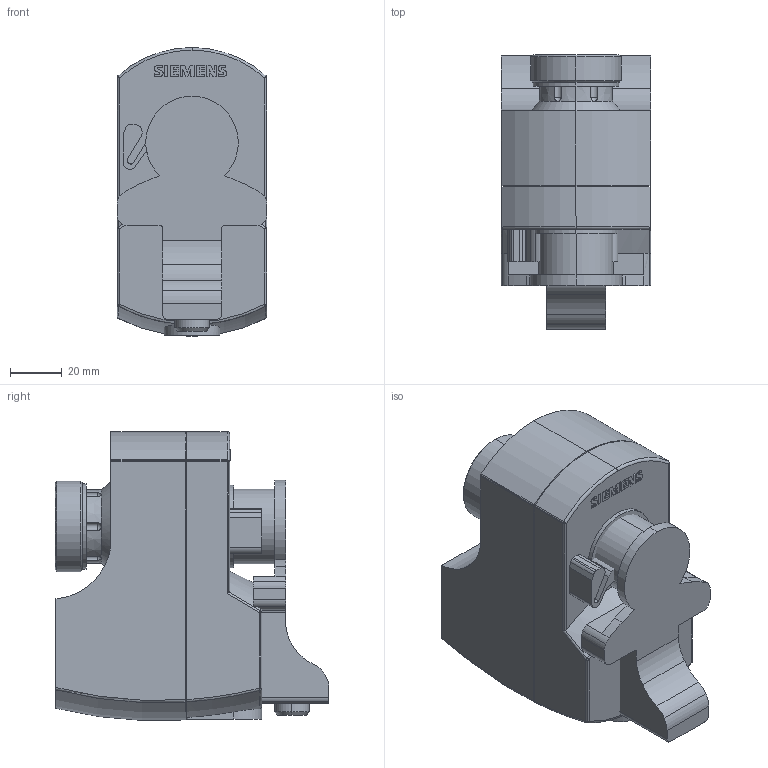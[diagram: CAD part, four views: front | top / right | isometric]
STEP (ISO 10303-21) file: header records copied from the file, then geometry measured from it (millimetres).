
FILE_DESCRIPTION((''),'2;1');
FILE_NAME('SFA21_18_71_18mitASC.stp','2006-10-04T14:18:58',(''),(''),'Mechanical Desktop 2006','Mechanical Desktop 2006',', , ');
FILE_SCHEMA(('AUTOMOTIVE_DESIGN { 1 2 10303 214 0 1 1 1 }'));
Length unit declared in the file: millimetre
Products named in the file (2): Product; RM_SDB
Bounding box: 58 x 106 x 111.87 mm (x, y, z)
Volume: 432941 mm3; surface area: 79899.8 mm2
Topology: 18 solids, 18 shells, 356 faces, 929 edges, 599 vertices
Faces by surface type: cylinder 156, plane 119, bspline 41, cone 16, torus 12, sphere 12
Entity records: 12308 total; most frequent: CARTESIAN_POINT 3238, DIRECTION 1942, ORIENTED_EDGE 1834, EDGE_CURVE 917, AXIS2_PLACEMENT_3D 745, VERTEX_POINT 599, VECTOR 452, LINE 452
